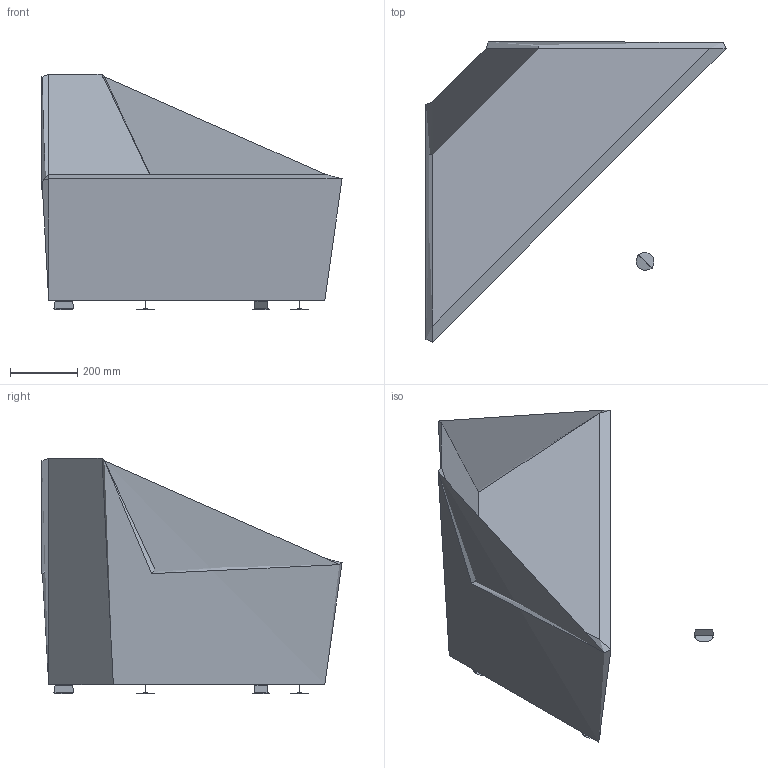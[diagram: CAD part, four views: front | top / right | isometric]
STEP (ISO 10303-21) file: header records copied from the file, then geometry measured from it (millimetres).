
FILE_DESCRIPTION(/* description */ (''),/* implementation_level */ '2;1');
FILE_NAME(/* name */ 'CLUBDR~1',/* time_stamp */ '2017-03-10T19:51:10+01:00',/* author */ (''),/* organization */ (''),/* preprocessor_version */ 'ST-DEVELOPER v15',/* originating_system */ '',/* authorisation */ '');
FILE_SCHEMA (('CONFIG_CONTROL_DESIGN'));
Length unit declared in the file: millimetre
Products named in the file (1): Document
Bounding box: 893.57 x 893.57 x 701.48 mm (x, y, z)
Surface area: 2836256.9 mm2 (no closed solid volume)
Topology: 0 solids, 7 shells, 39 faces, 95 edges, 61 vertices
Faces by surface type: bspline 34, plane 5
Entity records: 10284 total; most frequent: CARTESIAN_POINT 9679, ORIENTED_EDGE 150, EDGE_CURVE 90, VERTEX_POINT 58, B_SPLINE_CURVE_WITH_KNOTS 42, ADVANCED_FACE 39, FACE_OUTER_BOUND 39, EDGE_LOOP 39
